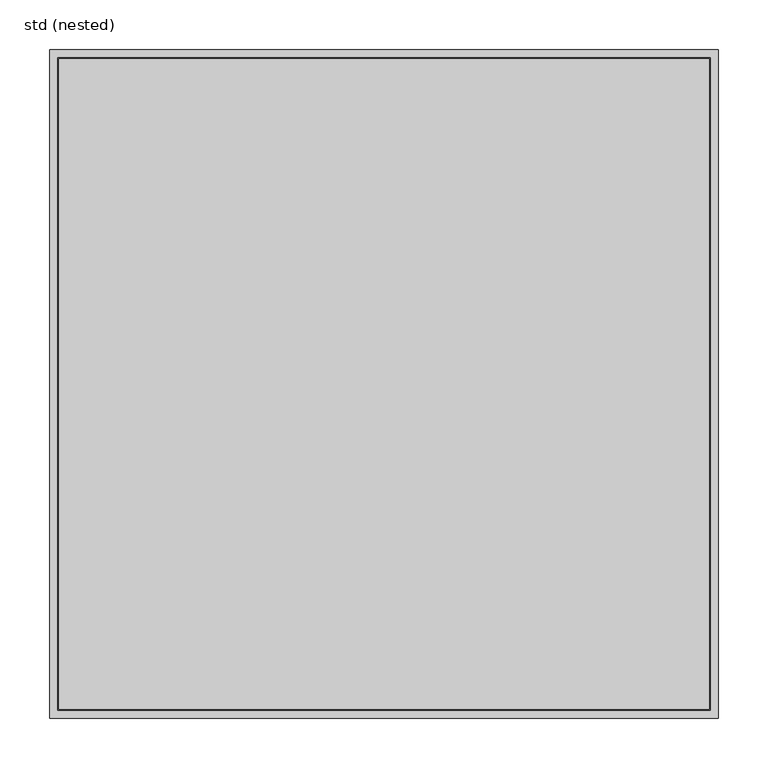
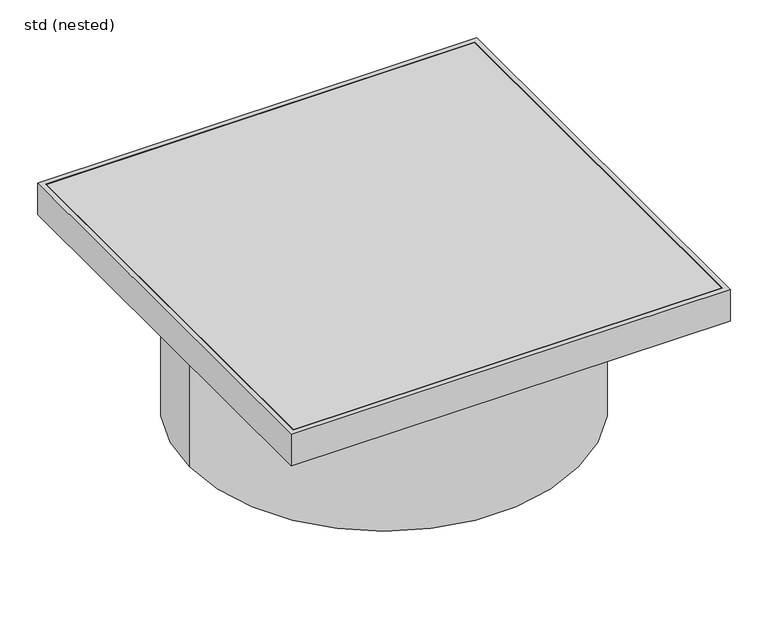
"""IFC4 building model written with IfcOpenShell, lengths in millimetres: unitary equipment geometry, ZZZ_do not use_ME_WPB_top section muliflex_ACO -SH : std (nested)."""

from ifc_helpers import new_model, si_unit, frame, origin, place, context, project, spatial, polyline, circle_curve, outline, extrude, source, transform, mapped, element, save
from ifc_brep_helpers import plane_surface, cylinder_surface, revolved_surface, advanced_brep


def std_nested_ef40863d(model_context):
    return source(origin(), model_context, "Body", "SolidModel", [
        extrude(outline(polyline([(327.5, -327.5), (-327.5, -327.5), (-327.5, 327.5), (327.5, 327.5), (327.5, -327.5)])), frame((0.0, 0.0, -43.0), z_axis=(0.0, 0.0, 1.0), x_axis=(1.0, 0.0, 0.0)), (0.0, 0.0, 1.0), 43.0),
        advanced_brep(
        [(336.5, 336.5, 0.0), (336.5, -336.5, 0.0), (336.5, -336.5, -51.0), (336.5, 336.5, -51.0), (-336.5, 336.5, 0.0), (-336.5, 336.5, -51.0), (-336.5, -336.5, 0.0), (-336.5, -336.5, -51.0), (-328.5, 328.5, 0.0), (-328.5, -328.5, 0.0), (-328.5, -328.5, -43.0), (-328.5, 328.5, -43.0), (328.5, 328.5, 0.0), (328.5, 328.5, -43.0), (328.5, -328.5, 0.0), (328.5, -328.5, -43.0), (298.0, 0.0, -270.0), (-298.0, 0.0, -270.0), (290.0, 0.0, -270.0), (-290.0, 0.0, -270.0), (298.0, 0.0, -51.0), (-298.0, 0.0, -51.0), (290.0, 0.0, -51.0), (-290.0, 0.0, -51.0), (290.0, 0.0, -43.0), (-290.0, 0.0, -43.0)],
        [
            (0, 1),
            (1, 2),
            (2, 3),
            (3, 0),
            (4, 0),
            (3, 5),
            (5, 4),
            (6, 4),
            (5, 7),
            (7, 6),
            (1, 6),
            (7, 2),
            (8, 9),
            (9, 10),
            (10, 11),
            (11, 8),
            (12, 8),
            (11, 13),
            (13, 12),
            (14, 12),
            (13, 15),
            (15, 14),
            (9, 14),
            (15, 10),
            (16, 17, circle_curve(frame((0.0, 0.0, -270.0), z_axis=(0.0, 0.0, -1.0), x_axis=(-1.0, 0.0, 0.0)), 298.0)),
            (17, 16, circle_curve(frame((0.0, 0.0, -270.0), z_axis=(0.0, 0.0, -1.0), x_axis=(-1.0, 0.0, 0.0)), 298.0)),
            (18, 19, circle_curve(frame((0.0, 0.0, -270.0), z_axis=(0.0, 0.0, 1.0), x_axis=(-1.0, 0.0, 0.0)), 290.0)),
            (19, 18, circle_curve(frame((0.0, 0.0, -270.0), z_axis=(0.0, 0.0, 1.0), x_axis=(-1.0, 0.0, 0.0)), 290.0)),
            (16, 20),
            (20, 21, circle_curve(frame((0.0, 0.0, -51.0), z_axis=(0.0, 0.0, -1.0), x_axis=(-1.0, 0.0, 0.0)), 298.0)),
            (21, 17),
            (21, 20, circle_curve(frame((0.0, 0.0, -51.0), z_axis=(0.0, 0.0, -1.0), x_axis=(-1.0, 0.0, 0.0)), 298.0)),
            (18, 22),
            (22, 23, circle_curve(frame((0.0, 0.0, -51.0), z_axis=(0.0, 0.0, 1.0), x_axis=(-1.0, 0.0, 0.0)), 290.0)),
            (23, 19),
            (23, 22, circle_curve(frame((0.0, 0.0, -51.0), z_axis=(0.0, 0.0, 1.0), x_axis=(-1.0, 0.0, 0.0)), 290.0)),
            (24, 25, circle_curve(frame((0.0, 0.0, -43.0), z_axis=(0.0, 0.0, -1.0), x_axis=(-1.0, 0.0, 0.0)), 290.0)),
            (25, 24, circle_curve(frame((0.0, 0.0, -43.0), z_axis=(0.0, 0.0, -1.0), x_axis=(-1.0, 0.0, 0.0)), 290.0)),
            (25, 23),
            (22, 24),
        ],
        [
            plane_surface(frame((336.5, -336.5, -1.0), z_axis=(1.0, 0.0, 0.0), x_axis=(0.0, 0.0, -1.0))),
            plane_surface(frame((336.5, 336.5, -1.0), z_axis=(0.0, 1.0, 0.0), x_axis=(0.0, 0.0, -1.0))),
            plane_surface(frame((-336.5, 336.5, -1.0), z_axis=(-1.0, 0.0, 0.0), x_axis=(0.0, 0.0, -1.0))),
            plane_surface(frame((-336.5, -336.5, -1.0), z_axis=(0.0, -1.0, 0.0), x_axis=(0.0, 0.0, -1.0))),
            plane_surface(frame((-328.5, -328.5, -1.0), z_axis=(1.0, 0.0, 0.0), x_axis=(0.0, 0.0, -1.0))),
            plane_surface(frame((-328.5, 328.5, -1.0), z_axis=(0.0, -1.0, 0.0), x_axis=(0.0, 0.0, -1.0))),
            plane_surface(frame((328.5, 328.5, -1.0), z_axis=(-1.0, 0.0, 0.0), x_axis=(0.0, 0.0, -1.0))),
            plane_surface(frame((328.5, -328.5, -1.0), z_axis=(0.0, 1.0, 0.0), x_axis=(0.0, 0.0, -1.0))),
            plane_surface(frame((0.0, 0.0, 0.0), z_axis=(0.0, 0.0, 1.0), x_axis=(0.0, -1.0, 0.0))),
            plane_surface(frame((0.0, 0.0, -270.0), z_axis=(0.0, 0.0, -1.0), x_axis=(0.0, -1.0, 0.0))),
            cylinder_surface(frame((0.0, 0.0, -270.0), z_axis=(0.0, 0.0, -1.0), x_axis=(-1.0, 0.0, 0.0)), 298.0),
            revolved_surface(polyline([(-290.0, 0.0, -51.0), (-290.0, 0.0, -270.0)]), (0.0, 0.0, -270.0), (0.0, 0.0, 1.0)),
            plane_surface(frame((0.0, 0.0, -51.0), z_axis=(0.0, 0.0, -1.0), x_axis=(0.0, -1.0, 0.0))),
            plane_surface(frame((0.0, 0.0, -43.0), z_axis=(0.0, 0.0, 1.0), x_axis=(0.0, -1.0, 0.0))),
            revolved_surface(polyline([(-290.0, 0.0, -43.0), (-290.0, 0.0, -51.0)]), (0.0, 0.0, -51.0), (0.0, 0.0, 1.0)),
        ],
        [
            (0, [[1, 2, 3, 4]]),
            (1, [[5, -4, 6, 7]]),
            (2, [[8, -7, 9, 10]]),
            (3, [[-2, 11, -10, 12]]),
            (4, [[13, 14, 15, 16]]),
            (5, [[17, -16, 18, 19]]),
            (6, [[20, -19, 21, 22]]),
            (7, [[-14, 23, -22, 24]]),
            (8, [[-1, -5, -8, -11], [-13, -17, -20, -23]]),
            (9, [[25, 26], [27, 28]]),
            (10, [[-25, 29, 30, 31]]),
            (10, [[-26, -31, 32, -29]]),
            (11, [[-27, 33, 34, 35]]),
            (11, [[-28, -35, 36, -33]]),
            (12, [[-12, -9, -6, -3], [-30, -32]]),
            (13, [[-15, -24, -21, -18], [37, 38]]),
            (14, [[-38, 39, -34, 40]]),
            (14, [[-37, -40, -36, -39]]),
        ],
    ),
    ])


if __name__ == "__main__":
    model = new_model("IFC4")
    model_context = context("Model", 3, world=origin())
    ifc_project = project(units=[si_unit("LENGTHUNIT", "METRE", prefix="MILLI")], contexts=[model_context])
    site = spatial("IfcSite", under=ifc_project)
    building = spatial("IfcBuilding", under=site)
    placement = place(None, origin())
    std_nested_shape = std_nested_ef40863d(model_context)
    element("IfcUnitaryEquipment", 1, ObjectType="ZZZ_do not use_ME_WPB_top section muliflex_ACO -SH : std (nested)", at=placement, inside=building, context=model_context, shape_type="MappedRepresentation", body=[
        mapped(std_nested_shape, transform((0.0, 0.0, 0.0), x_axis=(1.0, 0.0, 0.0), y_axis=(0.0, 1.0, 0.0), z_axis=(0.0, 0.0, 1.0))),
    ])
    save(model, "model.ifc")
